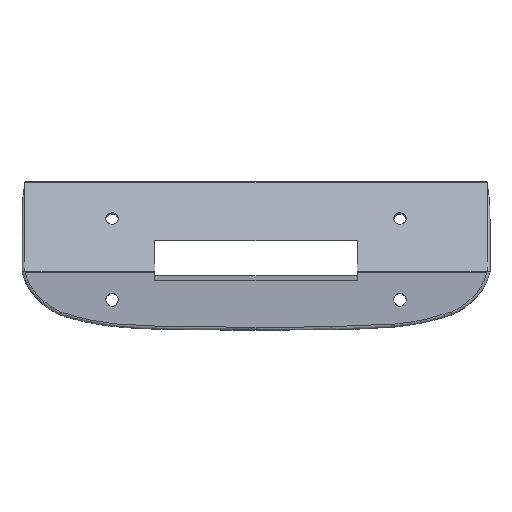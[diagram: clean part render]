
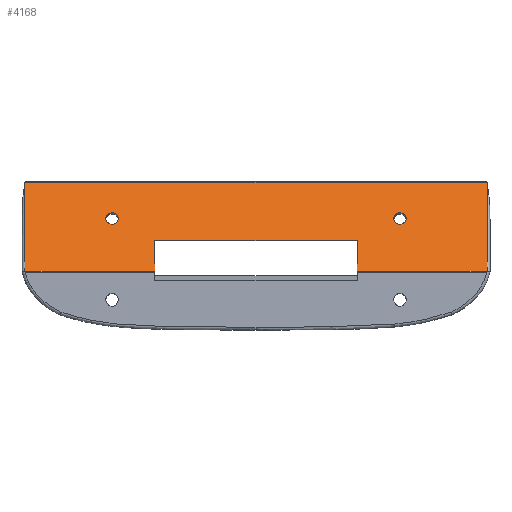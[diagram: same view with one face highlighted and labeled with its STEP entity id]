
A CAD part, top view. The second image highlights one B-rep face of the part: STEP entity #4168.
In plain terms, the highlighted planar face has unit normal (0, 0.417, 0.909).
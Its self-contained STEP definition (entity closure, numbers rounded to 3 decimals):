
#30=CIRCLE('',#4322,3.25);
#34=CIRCLE('',#4327,3.25);
#98=FACE_BOUND('',#629,.T.);
#99=FACE_BOUND('',#630,.T.);
#397=FACE_OUTER_BOUND('',#628,.T.);
#628=EDGE_LOOP('',(#3763,#3764,#3765,#3766,#3767,#3768,#3769,#3770));
#629=EDGE_LOOP('',(#3771));
#630=EDGE_LOOP('',(#3772));
#1186=LINE('',#7830,#1517);
#1192=LINE('',#7856,#1523);
#1195=LINE('',#7875,#1526);
#1196=LINE('',#7877,#1527);
#1211=LINE('',#8659,#1542);
#1220=LINE('',#10174,#1551);
#1221=LINE('',#10189,#1552);
#1222=LINE('',#10190,#1553);
#1517=VECTOR('',#4819,10.);
#1523=VECTOR('',#4843,10.);
#1526=VECTOR('',#4848,10.);
#1527=VECTOR('',#4851,10.);
#1542=VECTOR('',#4936,10.);
#1551=VECTOR('',#4971,10.);
#1552=VECTOR('',#4974,10.);
#1553=VECTOR('',#4975,10.);
#1870=VERTEX_POINT('',#7827);
#1871=VERTEX_POINT('',#7829);
#1881=VERTEX_POINT('',#7853);
#1882=VERTEX_POINT('',#7855);
#1885=VERTEX_POINT('',#7870);
#1913=VERTEX_POINT('',#8463);
#1919=VERTEX_POINT('',#8607);
#1924=VERTEX_POINT('',#8656);
#1925=VERTEX_POINT('',#8658);
#1973=VERTEX_POINT('',#10188);
#2449=EDGE_CURVE('',#1871,#1870,#1186,.T.);
#2462=EDGE_CURVE('',#1882,#1881,#1192,.T.);
#2467=EDGE_CURVE('',#1885,#1881,#1195,.T.);
#2468=EDGE_CURVE('',#1870,#1882,#1196,.T.);
#2509=EDGE_CURVE('',#1913,#1913,#30,.T.);
#2517=EDGE_CURVE('',#1919,#1919,#34,.T.);
#2525=EDGE_CURVE('',#1924,#1925,#1211,.T.);
#2587=EDGE_CURVE('',#1925,#1885,#1220,.T.);
#2589=EDGE_CURVE('',#1973,#1924,#1221,.T.);
#2590=EDGE_CURVE('',#1871,#1973,#1222,.T.);
#3763=ORIENTED_EDGE('',*,*,#2462,.T.);
#3764=ORIENTED_EDGE('',*,*,#2467,.F.);
#3765=ORIENTED_EDGE('',*,*,#2587,.F.);
#3766=ORIENTED_EDGE('',*,*,#2525,.F.);
#3767=ORIENTED_EDGE('',*,*,#2589,.F.);
#3768=ORIENTED_EDGE('',*,*,#2590,.F.);
#3769=ORIENTED_EDGE('',*,*,#2449,.T.);
#3770=ORIENTED_EDGE('',*,*,#2468,.T.);
#3771=ORIENTED_EDGE('',*,*,#2509,.T.);
#3772=ORIENTED_EDGE('',*,*,#2517,.T.);
#3969=PLANE('',#4344);
#4168=ADVANCED_FACE('',(#397,#98,#99),#3969,.T.);
#4322=AXIS2_PLACEMENT_3D('',#8464,#4912,#4913);
#4327=AXIS2_PLACEMENT_3D('',#8608,#4923,#4924);
#4344=AXIS2_PLACEMENT_3D('',#10187,#4972,#4973);
#4819=DIRECTION('',(0.,0.909,-0.417));
#4843=DIRECTION('',(0.,-0.909,0.417));
#4848=DIRECTION('',(-1.,0.,0.));
#4851=DIRECTION('',(1.,0.,0.));
#4912=DIRECTION('center_axis',(0.,-0.417,-0.909));
#4913=DIRECTION('ref_axis',(1.,0.,0.));
#4923=DIRECTION('center_axis',(0.,-0.417,-0.909));
#4924=DIRECTION('ref_axis',(1.,0.,0.));
#4936=DIRECTION('',(1.,0.,0.));
#4971=DIRECTION('',(0.,-0.909,0.417));
#4972=DIRECTION('center_axis',(0.,0.417,0.909));
#4973=DIRECTION('ref_axis',(0.,-0.909,0.417));
#4974=DIRECTION('',(0.,0.909,-0.417));
#4975=DIRECTION('',(-1.,0.,0.));
#7827=CARTESIAN_POINT('',(-52.5,45.387,-7.451));
#7829=CARTESIAN_POINT('',(-52.5,29.591,-0.199));
#7830=CARTESIAN_POINT('',(-52.5,57.731,-13.118));
#7853=CARTESIAN_POINT('',(52.5,29.591,-0.199));
#7855=CARTESIAN_POINT('',(52.5,45.387,-7.451));
#7856=CARTESIAN_POINT('',(52.5,57.731,-13.118));
#7870=CARTESIAN_POINT('',(119.811,29.591,-0.199));
#7875=CARTESIAN_POINT('',(0.,29.591,-0.199));
#7877=CARTESIAN_POINT('',(0.,45.387,-7.451));
#8463=CARTESIAN_POINT('',(-74.598,53.905,-11.361));
#8464=CARTESIAN_POINT('Origin',(-74.598,56.858,-12.717));
#8607=CARTESIAN_POINT('',(74.602,53.903,-11.36));
#8608=CARTESIAN_POINT('Origin',(74.602,56.856,-12.716));
#8656=CARTESIAN_POINT('',(-119.811,75.733,-21.383));
#8658=CARTESIAN_POINT('',(119.811,75.733,-21.383));
#8659=CARTESIAN_POINT('',(0.,75.733,-21.383));
#10174=CARTESIAN_POINT('',(119.811,58.727,-13.575));
#10187=CARTESIAN_POINT('Origin',(0.,76.552,-21.759));
#10188=CARTESIAN_POINT('',(-119.811,29.592,-0.199));
#10189=CARTESIAN_POINT('',(-119.811,58.727,-13.575));
#10190=CARTESIAN_POINT('',(0.,29.591,-0.199));
